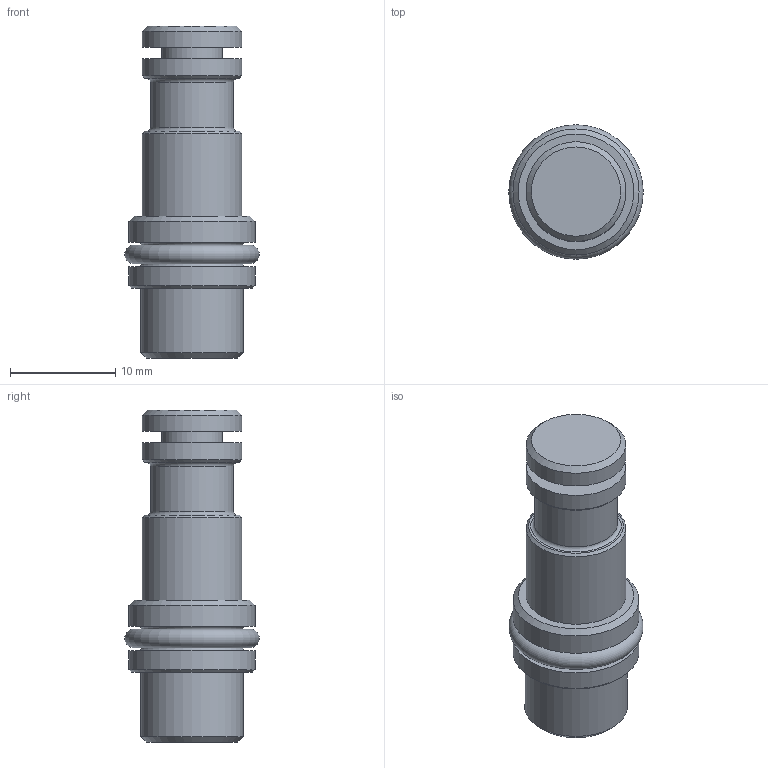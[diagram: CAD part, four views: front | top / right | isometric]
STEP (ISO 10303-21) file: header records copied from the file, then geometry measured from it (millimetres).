
FILE_DESCRIPTION (( 'STEP AP203' ), '1' );
FILE_NAME ('COB-1002 Dummy Plug.STEP', '2022-10-17T21:42:06', ( '' ), ( '' ), 'SwSTEP 2.0', 'SolidWorks 2022', '' );
FILE_SCHEMA (( 'CONFIG_CONTROL_DESIGN' ));
Length unit declared in the file: millimetre
Products named in the file (1): COB-1002 Dummy Plug
Bounding box: 12.8 x 12.8 x 31.6 mm (x, y, z)
Volume: 2078.6 mm3; surface area: 1681.4 mm2
Topology: 2 solids, 2 shells, 32 faces, 54 edges, 32 vertices
Faces by surface type: cylinder 10, plane 10, cone 7, torus 5
Full cylindrical faces by diameter (mm): 5.8 x1, 7 x1, 7.9 x1, 9.5 x3, 9.56 x1, 9.75 x1, 12 x2
Entity records: 699 total; most frequent: DIRECTION 126, CARTESIAN_POINT 93, AXIS2_PLACEMENT_3D 63, ORIENTED_EDGE 60, EDGE_LOOP 60, FACE_OUTER_BOUND 45, ADVANCED_FACE 32, CIRCLE 30
